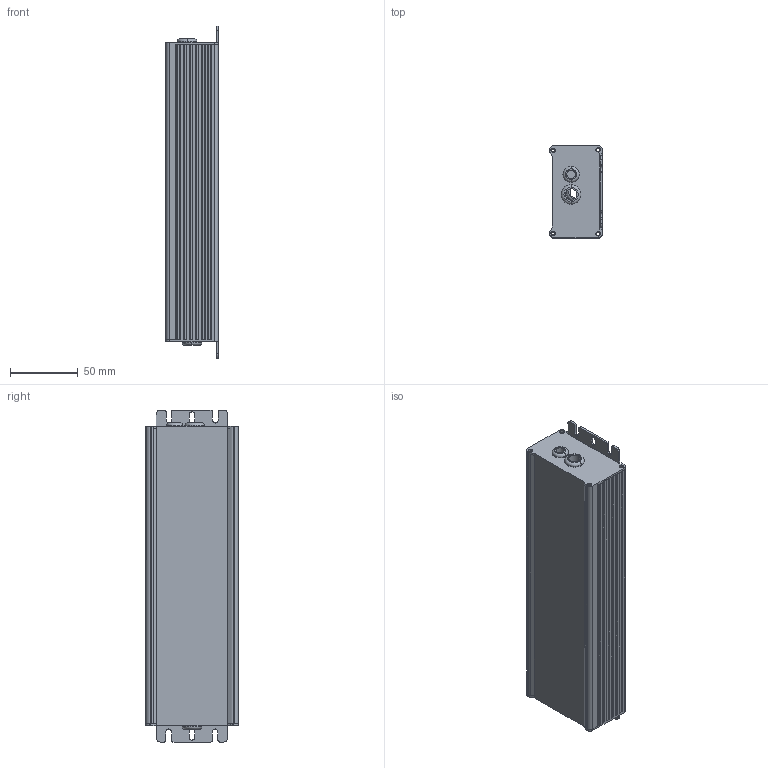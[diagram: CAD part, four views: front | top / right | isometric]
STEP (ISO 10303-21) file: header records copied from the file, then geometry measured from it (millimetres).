
FILE_DESCRIPTION(('OneSpaceDesigner STEP Export'),'2;1');
FILE_NAME('HVG-150.stp','2014-06-16T16:44:25',(''),(''),'OneSpace Designer STEP processor for AP214 (Solid Model)','OneSpace Designer 13.20 11-May-2005 (C) CoCreate Software GmbH','');
FILE_SCHEMA(('AUTOMOTIVE_DESIGN { 1 0 10303 214 1 1 1 1 }'));
Length unit declared in the file: millimetre
Products named in the file (4): ¤W»\; r.1.1; rubber1; HVG-150
Assembly tree (4 placements, depth 2):
  HVG-150
    rubber1  x2
    r.1.1
    ¤W»\
Bounding box: 38.74 x 68.05 x 245 mm (x, y, z)
Volume: 103604.9 mm3; surface area: 112745.6 mm2
Topology: 4 solids, 4 shells, 281 faces, 779 edges, 502 vertices
Faces by surface type: plane 166, cylinder 103, torus 12
Entity records: 7847 total; most frequent: ORIENTED_EDGE 1494, CARTESIAN_POINT 1317, DIRECTION 1186, EDGE_CURVE 747, VECTOR 484, LINE 484, VERTEX_POINT 482, AXIS2_PLACEMENT_3D 351
